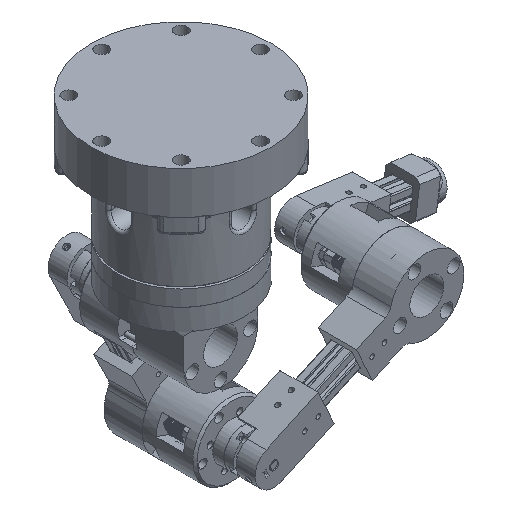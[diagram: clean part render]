
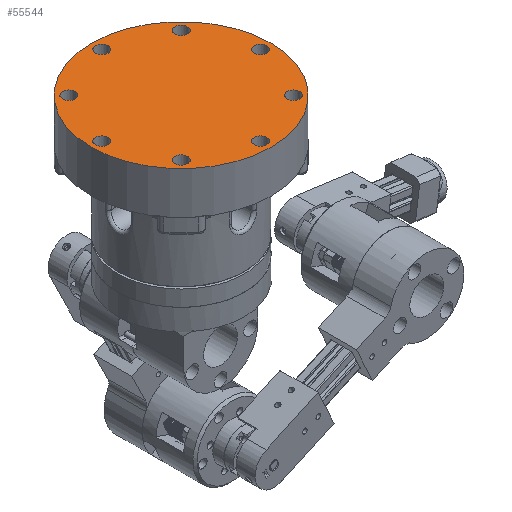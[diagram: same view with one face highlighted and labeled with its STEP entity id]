
A CAD part, isometric view. The second image highlights one B-rep face of the part: STEP entity #55544.
In plain terms, the highlighted planar face has unit normal (0, 0, 1) as drawn and (0, 1, 0) by its records, which use the part's own axes.
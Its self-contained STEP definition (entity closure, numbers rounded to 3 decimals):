
#3518=FACE_BOUND('',#9742,.T.);
#3519=FACE_BOUND('',#9743,.T.);
#3520=FACE_BOUND('',#9744,.T.);
#3521=FACE_BOUND('',#9745,.T.);
#3522=FACE_BOUND('',#9746,.T.);
#3523=FACE_BOUND('',#9747,.T.);
#3524=FACE_BOUND('',#9748,.T.);
#3525=FACE_BOUND('',#9749,.T.);
#6445=FACE_OUTER_BOUND('',#9741,.T.);
#9741=EDGE_LOOP('',(#49477));
#9742=EDGE_LOOP('',(#49478));
#9743=EDGE_LOOP('',(#49479));
#9744=EDGE_LOOP('',(#49480));
#9745=EDGE_LOOP('',(#49481));
#9746=EDGE_LOOP('',(#49482));
#9747=EDGE_LOOP('',(#49483));
#9748=EDGE_LOOP('',(#49484));
#9749=EDGE_LOOP('',(#49485));
#10917=CIRCLE('',#60048,6.);
#10921=CIRCLE('',#60055,6.);
#10925=CIRCLE('',#60062,6.);
#10929=CIRCLE('',#60069,6.);
#10933=CIRCLE('',#60076,6.);
#10937=CIRCLE('',#60083,6.);
#10941=CIRCLE('',#60090,6.);
#10945=CIRCLE('',#60097,6.);
#10947=CIRCLE('',#60101,85.);
#27552=VERTEX_POINT('',#93501);
#27556=VERTEX_POINT('',#93514);
#27560=VERTEX_POINT('',#93527);
#27564=VERTEX_POINT('',#93540);
#27568=VERTEX_POINT('',#93553);
#27572=VERTEX_POINT('',#93566);
#27576=VERTEX_POINT('',#93579);
#27580=VERTEX_POINT('',#93592);
#27582=VERTEX_POINT('',#93600);
#34927=EDGE_CURVE('',#27552,#27552,#10917,.T.);
#34933=EDGE_CURVE('',#27556,#27556,#10921,.T.);
#34939=EDGE_CURVE('',#27560,#27560,#10925,.T.);
#34945=EDGE_CURVE('',#27564,#27564,#10929,.T.);
#34951=EDGE_CURVE('',#27568,#27568,#10933,.T.);
#34957=EDGE_CURVE('',#27572,#27572,#10937,.T.);
#34963=EDGE_CURVE('',#27576,#27576,#10941,.T.);
#34969=EDGE_CURVE('',#27580,#27580,#10945,.T.);
#34973=EDGE_CURVE('',#27582,#27582,#10947,.T.);
#49477=ORIENTED_EDGE('',*,*,#34973,.T.);
#49478=ORIENTED_EDGE('',*,*,#34927,.T.);
#49479=ORIENTED_EDGE('',*,*,#34933,.T.);
#49480=ORIENTED_EDGE('',*,*,#34939,.T.);
#49481=ORIENTED_EDGE('',*,*,#34945,.T.);
#49482=ORIENTED_EDGE('',*,*,#34951,.T.);
#49483=ORIENTED_EDGE('',*,*,#34957,.T.);
#49484=ORIENTED_EDGE('',*,*,#34963,.T.);
#49485=ORIENTED_EDGE('',*,*,#34969,.T.);
#52631=PLANE('',#60103);
#55544=ADVANCED_FACE('',(#6445,#3518,#3519,#3520,#3521,#3522,#3523,#3524,
#3525),#52631,.T.);
#60048=AXIS2_PLACEMENT_3D('',#93502,#73913,#73914);
#60055=AXIS2_PLACEMENT_3D('',#93515,#73929,#73930);
#60062=AXIS2_PLACEMENT_3D('',#93528,#73945,#73946);
#60069=AXIS2_PLACEMENT_3D('',#93541,#73961,#73962);
#60076=AXIS2_PLACEMENT_3D('',#93554,#73977,#73978);
#60083=AXIS2_PLACEMENT_3D('',#93567,#73993,#73994);
#60090=AXIS2_PLACEMENT_3D('',#93580,#74009,#74010);
#60097=AXIS2_PLACEMENT_3D('',#93593,#74025,#74026);
#60101=AXIS2_PLACEMENT_3D('',#93601,#74035,#74036);
#60103=AXIS2_PLACEMENT_3D('',#93605,#74040,#74041);
#73913=DIRECTION('center_axis',(0.,-1.,0.));
#73914=DIRECTION('ref_axis',(0.707,0.,0.707));
#73929=DIRECTION('center_axis',(0.,-1.,0.));
#73930=DIRECTION('ref_axis',(0.,0.,1.));
#73945=DIRECTION('center_axis',(0.,-1.,0.));
#73946=DIRECTION('ref_axis',(-0.707,0.,0.707));
#73961=DIRECTION('center_axis',(0.,-1.,0.));
#73962=DIRECTION('ref_axis',(-1.,0.,0.));
#73977=DIRECTION('center_axis',(0.,-1.,0.));
#73978=DIRECTION('ref_axis',(-0.707,0.,-0.707));
#73993=DIRECTION('center_axis',(0.,-1.,0.));
#73994=DIRECTION('ref_axis',(0.,0.,-1.));
#74009=DIRECTION('center_axis',(0.,-1.,0.));
#74010=DIRECTION('ref_axis',(0.707,0.,-0.707));
#74025=DIRECTION('center_axis',(0.,-1.,0.));
#74026=DIRECTION('ref_axis',(1.,0.,0.));
#74035=DIRECTION('center_axis',(0.,1.,0.));
#74036=DIRECTION('ref_axis',(-1.,0.,0.));
#74040=DIRECTION('center_axis',(0.,1.,0.));
#74041=DIRECTION('ref_axis',(0.,0.,1.));
#93501=CARTESIAN_POINT('',(-57.276,40.,48.79));
#93502=CARTESIAN_POINT('Origin',(-53.033,40.,53.033));
#93514=CARTESIAN_POINT('',(-75.,40.,-6.));
#93515=CARTESIAN_POINT('Origin',(-75.,40.,0.));
#93527=CARTESIAN_POINT('',(-48.79,40.,-57.276));
#93528=CARTESIAN_POINT('Origin',(-53.033,40.,-53.033));
#93540=CARTESIAN_POINT('',(6.,40.,-75.));
#93541=CARTESIAN_POINT('Origin',(0.,40.,-75.));
#93553=CARTESIAN_POINT('',(57.276,40.,-48.79));
#93554=CARTESIAN_POINT('Origin',(53.033,40.,-53.033));
#93566=CARTESIAN_POINT('',(75.,40.,6.));
#93567=CARTESIAN_POINT('Origin',(75.,40.,0.));
#93579=CARTESIAN_POINT('',(48.79,40.,57.276));
#93580=CARTESIAN_POINT('Origin',(53.033,40.,53.033));
#93592=CARTESIAN_POINT('',(-6.,40.,75.));
#93593=CARTESIAN_POINT('Origin',(0.,40.,75.));
#93600=CARTESIAN_POINT('',(85.,40.,0.));
#93601=CARTESIAN_POINT('Origin',(0.,40.,0.));
#93605=CARTESIAN_POINT('Origin',(0.,40.,0.));
